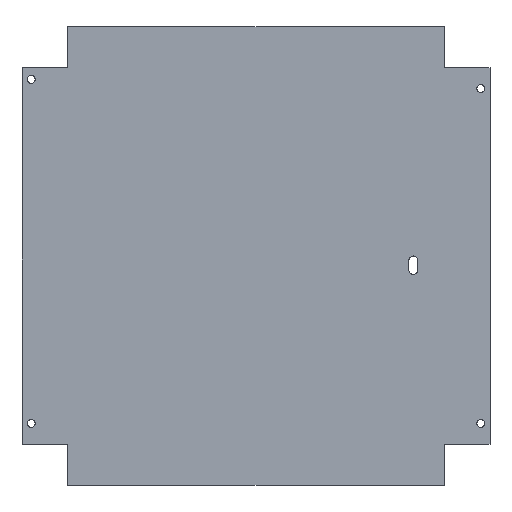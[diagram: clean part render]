
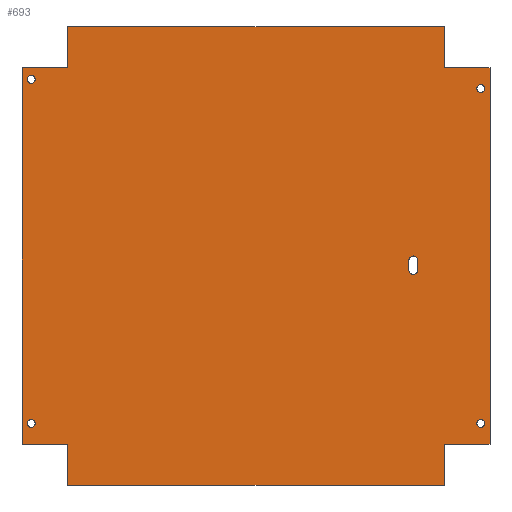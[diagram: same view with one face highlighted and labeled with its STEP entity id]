
A CAD part, top view. The second image highlights one B-rep face of the part: STEP entity #693.
In plain terms, the highlighted planar face has unit normal (0, 0, 1).
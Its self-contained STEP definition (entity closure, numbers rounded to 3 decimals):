
#156=DIRECTION('',(0.,-1.,0.));
#157=VECTOR('',#156,9.);
#158=CARTESIAN_POINT('',(-41.,50.,0.5));
#159=LINE('',#158,#157);
#160=DIRECTION('',(-1.,0.,0.));
#161=VECTOR('',#160,82.);
#162=CARTESIAN_POINT('',(41.,50.,0.5));
#163=LINE('',#162,#161);
#164=DIRECTION('',(0.,1.,0.));
#165=VECTOR('',#164,9.);
#166=CARTESIAN_POINT('',(41.,41.,0.5));
#167=LINE('',#166,#165);
#168=DIRECTION('',(-1.,0.,0.));
#169=VECTOR('',#168,10.);
#170=CARTESIAN_POINT('',(51.,41.,0.5));
#171=LINE('',#170,#169);
#172=DIRECTION('',(0.,1.,0.));
#173=VECTOR('',#172,82.);
#174=CARTESIAN_POINT('',(51.,-41.,0.5));
#175=LINE('',#174,#173);
#176=DIRECTION('',(1.,0.,0.));
#177=VECTOR('',#176,10.);
#178=CARTESIAN_POINT('',(41.,-41.,0.5));
#179=LINE('',#178,#177);
#180=DIRECTION('',(0.,1.,0.));
#181=VECTOR('',#180,9.);
#182=CARTESIAN_POINT('',(41.,-50.,0.5));
#183=LINE('',#182,#181);
#184=DIRECTION('',(1.,0.,0.));
#185=VECTOR('',#184,82.);
#186=CARTESIAN_POINT('',(-41.,-50.,0.5));
#187=LINE('',#186,#185);
#188=DIRECTION('',(0.,-1.,0.));
#189=VECTOR('',#188,9.);
#190=CARTESIAN_POINT('',(-41.,-41.,0.5));
#191=LINE('',#190,#189);
#192=DIRECTION('',(1.,0.,0.));
#193=VECTOR('',#192,10.);
#194=CARTESIAN_POINT('',(-51.,-41.,0.5));
#195=LINE('',#194,#193);
#196=DIRECTION('',(0.,-1.,0.));
#197=VECTOR('',#196,82.);
#198=CARTESIAN_POINT('',(-51.,41.,0.5));
#199=LINE('',#198,#197);
#200=DIRECTION('',(-1.,0.,0.));
#201=VECTOR('',#200,10.);
#202=CARTESIAN_POINT('',(-41.,41.,0.5));
#203=LINE('',#202,#201);
#204=CARTESIAN_POINT('',(34.3,-1.,0.5));
#205=DIRECTION('',(0.,0.,1.));
#206=DIRECTION('',(1.,0.,0.));
#207=AXIS2_PLACEMENT_3D('',#204,#205,#206);
#209=DIRECTION('',(0.,-1.,0.));
#210=VECTOR('',#209,2.);
#211=CARTESIAN_POINT('',(33.3,-1.,0.5));
#212=LINE('',#211,#210);
#213=CARTESIAN_POINT('',(34.3,-3.,0.5));
#214=DIRECTION('',(0.,0.,1.));
#215=DIRECTION('',(-1.,0.,0.));
#216=AXIS2_PLACEMENT_3D('',#213,#214,#215);
#218=DIRECTION('',(0.,1.,0.));
#219=VECTOR('',#218,2.);
#220=CARTESIAN_POINT('',(35.3,-3.,0.5));
#221=LINE('',#220,#219);
#222=CARTESIAN_POINT('',(-49.,-36.5,0.5));
#223=DIRECTION('',(0.,0.,-1.));
#224=DIRECTION('',(-1.,0.,0.));
#225=AXIS2_PLACEMENT_3D('',#222,#223,#224);
#227=CARTESIAN_POINT('',(-49.,-36.5,0.5));
#228=DIRECTION('',(0.,0.,-1.));
#229=DIRECTION('',(1.,0.,0.));
#230=AXIS2_PLACEMENT_3D('',#227,#228,#229);
#232=CARTESIAN_POINT('',(49.,-36.5,0.5));
#233=DIRECTION('',(0.,0.,-1.));
#234=DIRECTION('',(-1.,0.,0.));
#235=AXIS2_PLACEMENT_3D('',#232,#233,#234);
#237=CARTESIAN_POINT('',(49.,-36.5,0.5));
#238=DIRECTION('',(0.,0.,-1.));
#239=DIRECTION('',(1.,0.,0.));
#240=AXIS2_PLACEMENT_3D('',#237,#238,#239);
#242=CARTESIAN_POINT('',(49.,36.5,0.5));
#243=DIRECTION('',(0.,0.,-1.));
#244=DIRECTION('',(-1.,0.,0.));
#245=AXIS2_PLACEMENT_3D('',#242,#243,#244);
#247=CARTESIAN_POINT('',(49.,36.5,0.5));
#248=DIRECTION('',(0.,0.,-1.));
#249=DIRECTION('',(1.,0.,0.));
#250=AXIS2_PLACEMENT_3D('',#247,#248,#249);
#252=CARTESIAN_POINT('',(-49.,38.5,0.5));
#253=DIRECTION('',(0.,0.,-1.));
#254=DIRECTION('',(-1.,0.,0.));
#255=AXIS2_PLACEMENT_3D('',#252,#253,#254);
#257=CARTESIAN_POINT('',(-49.,38.5,0.5));
#258=DIRECTION('',(0.,0.,-1.));
#259=DIRECTION('',(1.,0.,0.));
#260=AXIS2_PLACEMENT_3D('',#257,#258,#259);
#334=CARTESIAN_POINT('',(-41.,50.,0.5));
#335=CARTESIAN_POINT('',(-41.,41.,0.5));
#336=VERTEX_POINT('',#334);
#337=VERTEX_POINT('',#335);
#338=CARTESIAN_POINT('',(-51.,41.,0.5));
#339=VERTEX_POINT('',#338);
#340=CARTESIAN_POINT('',(-51.,-41.,0.5));
#341=VERTEX_POINT('',#340);
#342=CARTESIAN_POINT('',(-41.,-41.,0.5));
#343=VERTEX_POINT('',#342);
#344=CARTESIAN_POINT('',(-41.,-50.,0.5));
#345=VERTEX_POINT('',#344);
#346=CARTESIAN_POINT('',(41.,-50.,0.5));
#347=VERTEX_POINT('',#346);
#348=CARTESIAN_POINT('',(41.,-41.,0.5));
#349=VERTEX_POINT('',#348);
#350=CARTESIAN_POINT('',(51.,-41.,0.5));
#351=VERTEX_POINT('',#350);
#352=CARTESIAN_POINT('',(51.,41.,0.5));
#353=VERTEX_POINT('',#352);
#354=CARTESIAN_POINT('',(41.,41.,0.5));
#355=VERTEX_POINT('',#354);
#356=CARTESIAN_POINT('',(41.,50.,0.5));
#357=VERTEX_POINT('',#356);
#366=CARTESIAN_POINT('',(35.3,-1.,0.5));
#367=CARTESIAN_POINT('',(33.3,-1.,0.5));
#368=VERTEX_POINT('',#366);
#369=VERTEX_POINT('',#367);
#370=CARTESIAN_POINT('',(33.3,-3.,0.5));
#371=VERTEX_POINT('',#370);
#372=CARTESIAN_POINT('',(35.3,-3.,0.5));
#373=VERTEX_POINT('',#372);
#378=CARTESIAN_POINT('',(-49.85,-36.5,0.5));
#379=CARTESIAN_POINT('',(-48.15,-36.5,0.5));
#380=VERTEX_POINT('',#378);
#381=VERTEX_POINT('',#379);
#386=CARTESIAN_POINT('',(48.15,-36.5,0.5));
#387=CARTESIAN_POINT('',(49.85,-36.5,0.5));
#388=VERTEX_POINT('',#386);
#389=VERTEX_POINT('',#387);
#394=CARTESIAN_POINT('',(48.15,36.5,0.5));
#395=CARTESIAN_POINT('',(49.85,36.5,0.5));
#396=VERTEX_POINT('',#394);
#397=VERTEX_POINT('',#395);
#402=CARTESIAN_POINT('',(-49.85,38.5,0.5));
#403=CARTESIAN_POINT('',(-48.15,38.5,0.5));
#404=VERTEX_POINT('',#402);
#405=VERTEX_POINT('',#403);
#640=CARTESIAN_POINT('',(0.,0.,0.5));
#641=DIRECTION('',(0.,0.,1.));
#642=DIRECTION('',(1.,0.,0.));
#643=AXIS2_PLACEMENT_3D('',#640,#641,#642);
#644=PLANE('',#643);
#645=ORIENTED_EDGE('',*,*,#480,.F.);
#646=ORIENTED_EDGE('',*,*,#495,.F.);
#647=ORIENTED_EDGE('',*,*,#509,.F.);
#648=ORIENTED_EDGE('',*,*,#523,.F.);
#649=ORIENTED_EDGE('',*,*,#537,.F.);
#650=ORIENTED_EDGE('',*,*,#551,.F.);
#651=ORIENTED_EDGE('',*,*,#565,.F.);
#652=ORIENTED_EDGE('',*,*,#579,.F.);
#653=ORIENTED_EDGE('',*,*,#593,.F.);
#654=ORIENTED_EDGE('',*,*,#607,.F.);
#655=ORIENTED_EDGE('',*,*,#621,.F.);
#656=ORIENTED_EDGE('',*,*,#634,.F.);
#657=EDGE_LOOP('',(#645,#646,#647,#648,#649,#650,#651,#652,#653,#654,#655,
#656));
#658=FACE_OUTER_BOUND('',#657,.F.);
#660=ORIENTED_EDGE('',*,*,#659,.T.);
#662=ORIENTED_EDGE('',*,*,#661,.T.);
#664=ORIENTED_EDGE('',*,*,#663,.T.);
#666=ORIENTED_EDGE('',*,*,#665,.T.);
#667=EDGE_LOOP('',(#660,#662,#664,#666));
#668=FACE_BOUND('',#667,.F.);
#670=ORIENTED_EDGE('',*,*,#669,.F.);
#672=ORIENTED_EDGE('',*,*,#671,.F.);
#673=EDGE_LOOP('',(#670,#672));
#674=FACE_BOUND('',#673,.F.);
#676=ORIENTED_EDGE('',*,*,#675,.F.);
#678=ORIENTED_EDGE('',*,*,#677,.F.);
#679=EDGE_LOOP('',(#676,#678));
#680=FACE_BOUND('',#679,.F.);
#682=ORIENTED_EDGE('',*,*,#681,.F.);
#684=ORIENTED_EDGE('',*,*,#683,.F.);
#685=EDGE_LOOP('',(#682,#684));
#686=FACE_BOUND('',#685,.F.);
#688=ORIENTED_EDGE('',*,*,#687,.F.);
#690=ORIENTED_EDGE('',*,*,#689,.F.);
#691=EDGE_LOOP('',(#688,#690));
#692=FACE_BOUND('',#691,.F.);
#693=ADVANCED_FACE('',(#658,#668,#674,#680,#686,#692),#644,.T.);
#208=CIRCLE('',#207,1.);
#217=CIRCLE('',#216,1.);
#226=CIRCLE('',#225,0.85);
#231=CIRCLE('',#230,0.85);
#236=CIRCLE('',#235,0.85);
#241=CIRCLE('',#240,0.85);
#246=CIRCLE('',#245,0.85);
#251=CIRCLE('',#250,0.85);
#256=CIRCLE('',#255,0.85);
#261=CIRCLE('',#260,0.85);
#480=EDGE_CURVE('',#336,#337,#159,.T.);
#495=EDGE_CURVE('',#357,#336,#163,.T.);
#509=EDGE_CURVE('',#355,#357,#167,.T.);
#523=EDGE_CURVE('',#353,#355,#171,.T.);
#537=EDGE_CURVE('',#351,#353,#175,.T.);
#551=EDGE_CURVE('',#349,#351,#179,.T.);
#565=EDGE_CURVE('',#347,#349,#183,.T.);
#579=EDGE_CURVE('',#345,#347,#187,.T.);
#593=EDGE_CURVE('',#343,#345,#191,.T.);
#607=EDGE_CURVE('',#341,#343,#195,.T.);
#621=EDGE_CURVE('',#339,#341,#199,.T.);
#634=EDGE_CURVE('',#337,#339,#203,.T.);
#659=EDGE_CURVE('',#368,#369,#208,.T.);
#661=EDGE_CURVE('',#369,#371,#212,.T.);
#663=EDGE_CURVE('',#371,#373,#217,.T.);
#665=EDGE_CURVE('',#373,#368,#221,.T.);
#669=EDGE_CURVE('',#380,#381,#226,.T.);
#671=EDGE_CURVE('',#381,#380,#231,.T.);
#675=EDGE_CURVE('',#388,#389,#236,.T.);
#677=EDGE_CURVE('',#389,#388,#241,.T.);
#681=EDGE_CURVE('',#396,#397,#246,.T.);
#683=EDGE_CURVE('',#397,#396,#251,.T.);
#687=EDGE_CURVE('',#404,#405,#256,.T.);
#689=EDGE_CURVE('',#405,#404,#261,.T.);
